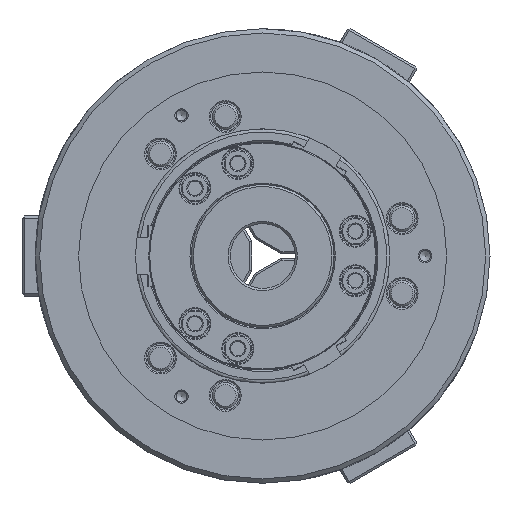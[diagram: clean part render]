
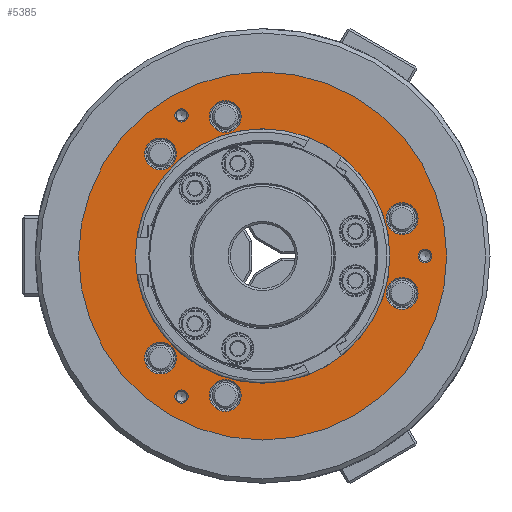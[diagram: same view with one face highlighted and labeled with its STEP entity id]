
A CAD part, left-side view. The second image highlights one B-rep face of the part: STEP entity #5385.
In plain terms, the highlighted planar face has unit normal (-1, 0, 0).
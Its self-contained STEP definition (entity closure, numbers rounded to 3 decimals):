
#961 = FACE_BOUND ( 'NONE', #27245, .T. ) ;
#1304 = PLANE ( 'NONE',  #68127 ) ;
#2054 = DIRECTION ( 'NONE',  ( -1., 0., 0. ) ) ;
#2558 = CIRCLE ( 'NONE', #15403, 7.35 ) ;
#2686 = VERTEX_POINT ( 'NONE', #48028 ) ;
#3097 = EDGE_LOOP ( 'NONE', ( #21826 ) ) ;
#3558 = EDGE_LOOP ( 'NONE', ( #53482 ) ) ;
#3698 = EDGE_CURVE ( 'NONE', #2686, #2686, #66776, .T. ) ;
#4249 = FACE_BOUND ( 'NONE', #20608, .T. ) ;
#5209 = VERTEX_POINT ( 'NONE', #16204 ) ;
#5385 = ADVANCED_FACE ( 'NONE', ( #4249, #26578, #961, #61660, #51400, #28759, #11933, #17425, #52136, #6781, #13009 ), #1304, .F. ) ;
#5768 = CIRCLE ( 'NONE', #15126, 7.35 ) ;
#6781 = FACE_BOUND ( 'NONE', #59854, .T. ) ;
#7690 = EDGE_CURVE ( 'NONE', #22411, #22411, #2558, .T. ) ;
#7726 = CARTESIAN_POINT ( 'NONE',  ( -86., -64.403, 17.257 ) ) ;
#8688 = DIRECTION ( 'NONE',  ( 0., 0., -1. ) ) ;
#8947 = EDGE_CURVE ( 'NONE', #44340, #44340, #43978, .T. ) ;
#8966 = DIRECTION ( 'NONE',  ( 0., 0., -1. ) ) ;
#9158 = EDGE_CURVE ( 'NONE', #38141, #38141, #19480, .T. ) ;
#9801 = CARTESIAN_POINT ( 'NONE',  ( -86., 0., 85. ) ) ;
#9869 = ORIENTED_EDGE ( 'NONE', *, *, #59007, .F. ) ;
#11076 = CARTESIAN_POINT ( 'NONE',  ( -86., -64.403, -24.607 ) ) ;
#11933 = FACE_BOUND ( 'NONE', #3097, .T. ) ;
#11989 = VERTEX_POINT ( 'NONE', #18202 ) ;
#12151 = DIRECTION ( 'NONE',  ( 1., 0., 0. ) ) ;
#12233 = EDGE_CURVE ( 'NONE', #5209, #5209, #58465, .T. ) ;
#12890 = AXIS2_PLACEMENT_3D ( 'NONE', #13399, #2054, #24017 ) ;
#13009 = FACE_OUTER_BOUND ( 'NONE', #33360, .T. ) ;
#13399 = CARTESIAN_POINT ( 'NONE',  ( -86., 0., 0. ) ) ;
#14240 = EDGE_CURVE ( 'NONE', #27543, #27543, #44655, .T. ) ;
#14473 = ORIENTED_EDGE ( 'NONE', *, *, #7690, .T. ) ;
#15126 = AXIS2_PLACEMENT_3D ( 'NONE', #34453, #12151, #40299 ) ;
#15235 = CIRCLE ( 'NONE', #52632, 3.1 ) ;
#15403 = AXIS2_PLACEMENT_3D ( 'NONE', #18619, #53302, #8688 ) ;
#15884 = CARTESIAN_POINT ( 'NONE',  ( -86., 0., 0. ) ) ;
#16042 = DIRECTION ( 'NONE',  ( 0., 0., 1. ) ) ;
#16133 = CIRCLE ( 'NONE', #57019, 3.1 ) ;
#16204 = CARTESIAN_POINT ( 'NONE',  ( -86., 0., 58.75 ) ) ;
#16929 = CARTESIAN_POINT ( 'NONE',  ( -86., 47.146, 39.796 ) ) ;
#17425 = FACE_BOUND ( 'NONE', #50362, .T. ) ;
#18202 = CARTESIAN_POINT ( 'NONE',  ( -86., -64.403, 9.907 ) ) ;
#18361 = EDGE_LOOP ( 'NONE', ( #38663 ) ) ;
#18619 = CARTESIAN_POINT ( 'NONE',  ( -86., 17.257, 64.403 ) ) ;
#19434 = DIRECTION ( 'NONE',  ( 1., 0., 0. ) ) ;
#19480 = CIRCLE ( 'NONE', #55639, 7.35 ) ;
#20608 = EDGE_LOOP ( 'NONE', ( #9869 ) ) ;
#21826 = ORIENTED_EDGE ( 'NONE', *, *, #14240, .F. ) ;
#22410 = AXIS2_PLACEMENT_3D ( 'NONE', #71490, #32396, #37870 ) ;
#22411 = VERTEX_POINT ( 'NONE', #66652 ) ;
#22903 = DIRECTION ( 'NONE',  ( 1., 0., 0. ) ) ;
#23026 = EDGE_LOOP ( 'NONE', ( #64081 ) ) ;
#24017 = DIRECTION ( 'NONE',  ( 0., 0., 1. ) ) ;
#24065 = EDGE_CURVE ( 'NONE', #29335, #29335, #16133, .T. ) ;
#25284 = ORIENTED_EDGE ( 'NONE', *, *, #12233, .F. ) ;
#25856 = ORIENTED_EDGE ( 'NONE', *, *, #3698, .T. ) ;
#26578 = FACE_BOUND ( 'NONE', #23026, .T. ) ;
#26597 = DIRECTION ( 'NONE',  ( -1., 0., 0. ) ) ;
#27245 = EDGE_LOOP ( 'NONE', ( #25856 ) ) ;
#27543 = VERTEX_POINT ( 'NONE', #49846 ) ;
#28759 = FACE_BOUND ( 'NONE', #48423, .T. ) ;
#29335 = VERTEX_POINT ( 'NONE', #62600 ) ;
#31472 = CARTESIAN_POINT ( 'NONE',  ( -86., 47.146, 47.146 ) ) ;
#31932 = ORIENTED_EDGE ( 'NONE', *, *, #67194, .T. ) ;
#32396 = DIRECTION ( 'NONE',  ( 1., 0., 0. ) ) ;
#32485 = VERTEX_POINT ( 'NONE', #55145 ) ;
#33360 = EDGE_LOOP ( 'NONE', ( #55767 ) ) ;
#33807 = ORIENTED_EDGE ( 'NONE', *, *, #60459, .T. ) ;
#34453 = CARTESIAN_POINT ( 'NONE',  ( -86., 47.146, -47.146 ) ) ;
#37851 = DIRECTION ( 'NONE',  ( 1., 0., 0. ) ) ;
#37870 = DIRECTION ( 'NONE',  ( 0., 0., -1. ) ) ;
#37959 = VERTEX_POINT ( 'NONE', #9801 ) ;
#38141 = VERTEX_POINT ( 'NONE', #11076 ) ;
#38663 = ORIENTED_EDGE ( 'NONE', *, *, #8947, .T. ) ;
#38902 = DIRECTION ( 'NONE',  ( -1., 0., 0. ) ) ;
#39357 = CARTESIAN_POINT ( 'NONE',  ( -86., 85., 0. ) ) ;
#40223 = CIRCLE ( 'NONE', #68252, 7.35 ) ;
#40299 = DIRECTION ( 'NONE',  ( 0., 0., -1. ) ) ;
#40690 = CIRCLE ( 'NONE', #50044, 85. ) ;
#41370 = DIRECTION ( 'NONE',  ( 1., 0., 0. ) ) ;
#42614 = CARTESIAN_POINT ( 'NONE',  ( -86., -64.403, -17.257 ) ) ;
#42678 = CARTESIAN_POINT ( 'NONE',  ( -86., 37.5, -64.952 ) ) ;
#43787 = CARTESIAN_POINT ( 'NONE',  ( -86., 47.146, -54.496 ) ) ;
#43807 = CARTESIAN_POINT ( 'NONE',  ( -86., -75., 0. ) ) ;
#43978 = CIRCLE ( 'NONE', #61494, 7.35 ) ;
#44340 = VERTEX_POINT ( 'NONE', #16929 ) ;
#44387 = DIRECTION ( 'NONE',  ( 0., 0., 1. ) ) ;
#44655 = CIRCLE ( 'NONE', #47018, 3.1 ) ;
#44735 = DIRECTION ( 'NONE',  ( 0., 0., 1. ) ) ;
#47018 = AXIS2_PLACEMENT_3D ( 'NONE', #42678, #26597, #55108 ) ;
#47210 = DIRECTION ( 'NONE',  ( 0., 0., -1. ) ) ;
#48028 = CARTESIAN_POINT ( 'NONE',  ( -86., 17.257, -71.753 ) ) ;
#48423 = EDGE_LOOP ( 'NONE', ( #14473 ) ) ;
#49846 = CARTESIAN_POINT ( 'NONE',  ( -86., 37.5, -61.852 ) ) ;
#50044 = AXIS2_PLACEMENT_3D ( 'NONE', #15884, #38902, #44387 ) ;
#50362 = EDGE_LOOP ( 'NONE', ( #31932 ) ) ;
#50896 = EDGE_LOOP ( 'NONE', ( #33807 ) ) ;
#51055 = DIRECTION ( 'NONE',  ( 0., 0., -1. ) ) ;
#51400 = FACE_BOUND ( 'NONE', #18361, .T. ) ;
#52136 = FACE_BOUND ( 'NONE', #3558, .T. ) ;
#52632 = AXIS2_PLACEMENT_3D ( 'NONE', #60096, #71800, #44735 ) ;
#53302 = DIRECTION ( 'NONE',  ( 1., 0., 0. ) ) ;
#53482 = ORIENTED_EDGE ( 'NONE', *, *, #9158, .T. ) ;
#54131 = DIRECTION ( 'NONE',  ( 0., 0., -1. ) ) ;
#55108 = DIRECTION ( 'NONE',  ( 0., 0., 1. ) ) ;
#55145 = CARTESIAN_POINT ( 'NONE',  ( -86., 37.5, 68.052 ) ) ;
#55639 = AXIS2_PLACEMENT_3D ( 'NONE', #42614, #37851, #8966 ) ;
#55767 = ORIENTED_EDGE ( 'NONE', *, *, #57176, .T. ) ;
#57019 = AXIS2_PLACEMENT_3D ( 'NONE', #43807, #66125, #16042 ) ;
#57176 = EDGE_CURVE ( 'NONE', #37959, #37959, #40690, .T. ) ;
#58465 = CIRCLE ( 'NONE', #12890, 58.75 ) ;
#59007 = EDGE_CURVE ( 'NONE', #32485, #32485, #15235, .T. ) ;
#59854 = EDGE_LOOP ( 'NONE', ( #25284 ) ) ;
#60096 = CARTESIAN_POINT ( 'NONE',  ( -86., 37.5, 64.952 ) ) ;
#60459 = EDGE_CURVE ( 'NONE', #60979, #60979, #5768, .T. ) ;
#60979 = VERTEX_POINT ( 'NONE', #43787 ) ;
#61494 = AXIS2_PLACEMENT_3D ( 'NONE', #31472, #19434, #54131 ) ;
#61660 = FACE_BOUND ( 'NONE', #50896, .T. ) ;
#62600 = CARTESIAN_POINT ( 'NONE',  ( -86., -75., 3.1 ) ) ;
#64081 = ORIENTED_EDGE ( 'NONE', *, *, #24065, .F. ) ;
#66125 = DIRECTION ( 'NONE',  ( -1., 0., 0. ) ) ;
#66652 = CARTESIAN_POINT ( 'NONE',  ( -86., 17.257, 57.053 ) ) ;
#66776 = CIRCLE ( 'NONE', #22410, 7.35 ) ;
#67194 = EDGE_CURVE ( 'NONE', #11989, #11989, #40223, .T. ) ;
#68127 = AXIS2_PLACEMENT_3D ( 'NONE', #39357, #22903, #51055 ) ;
#68252 = AXIS2_PLACEMENT_3D ( 'NONE', #7726, #41370, #47210 ) ;
#71490 = CARTESIAN_POINT ( 'NONE',  ( -86., 17.257, -64.403 ) ) ;
#71800 = DIRECTION ( 'NONE',  ( -1., 0., 0. ) ) ;
